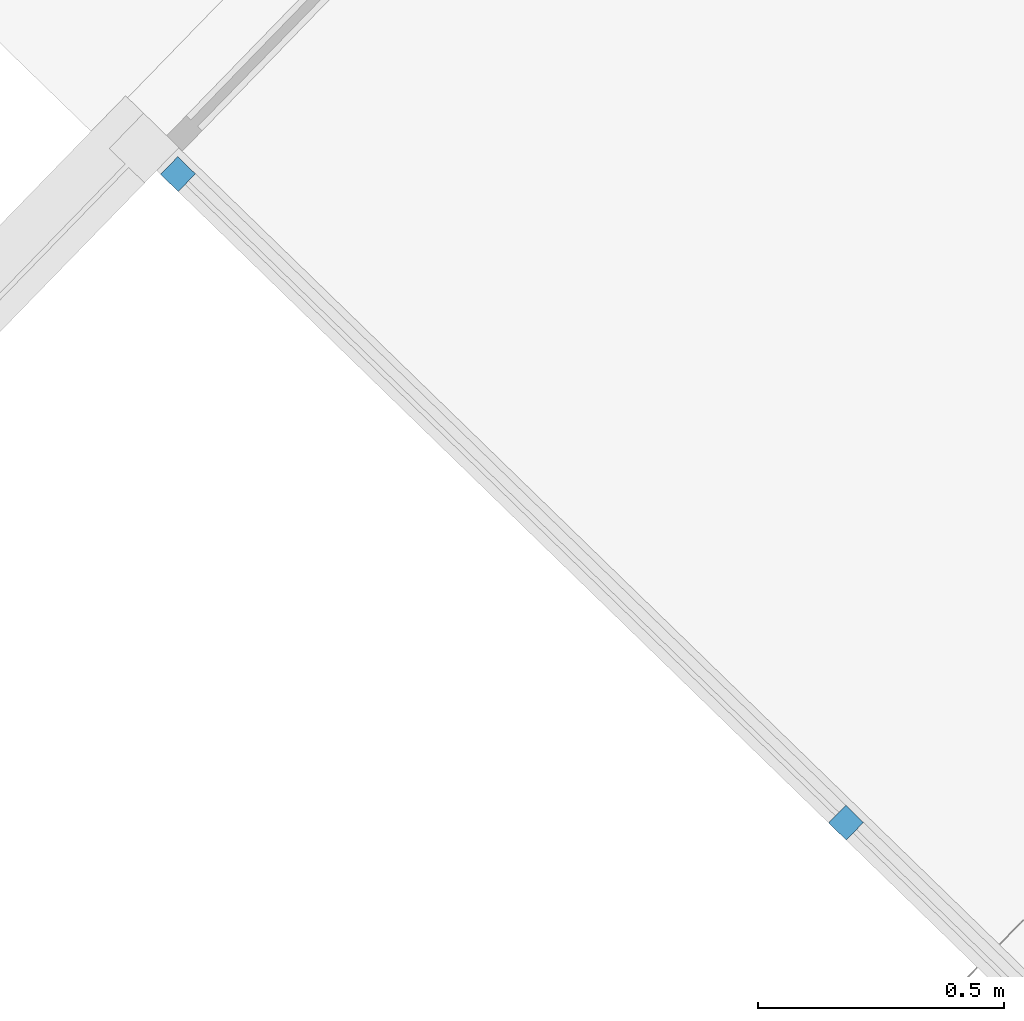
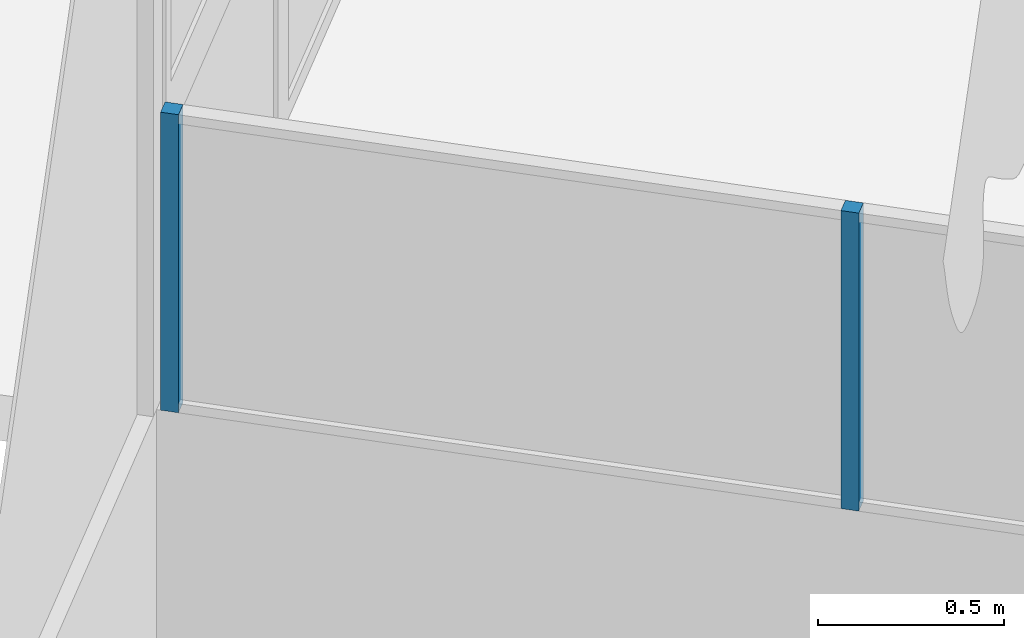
# One storey, part 8 of 37: 2 members, 1 element without a shape of its own.
"""IFC2X3 building model written with IfcOpenShell, lengths in centimetres."""

from ifc_helpers import new_model, entity, si_unit, converted_unit, derived_unit, direction, frame, frame_2d, origin, origin_2d_with_axis, place, context, subcontext, project, spatial, rectangle, extrude, material, type_object, element, aggregate, save


model = new_model("IFC2X3")

# Units and contexts
model_context = context("Model", 3, precision=0.001, world=origin(), true_north=direction((0.717475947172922, 0.696583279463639)))
body_context = subcontext(model_context, "Body", "Model", "MODEL_VIEW")
ifc_project = project(units=[si_unit("LENGTHUNIT", "METRE", prefix="CENTI"), si_unit("AREAUNIT", "SQUARE_METRE"), si_unit("VOLUMEUNIT", "CUBIC_METRE"), converted_unit("PLANEANGLEUNIT", "DEGREE", entity("IfcRatioMeasure", 0.0174532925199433), si_unit("PLANEANGLEUNIT", "RADIAN"), dimensions=[0, 0, 0, 0, 0, 0, 0]), si_unit("MASSUNIT", "GRAM", prefix="KILO"), derived_unit("MASSDENSITYUNIT", [(si_unit("MASSUNIT", "GRAM", prefix="KILO"), 1), (si_unit("LENGTHUNIT", "METRE"), -3)]), si_unit("TIMEUNIT", "SECOND"), si_unit("FREQUENCYUNIT", "HERTZ"), si_unit("THERMODYNAMICTEMPERATUREUNIT", "DEGREE_CELSIUS"), derived_unit("THERMALTRANSMITTANCEUNIT", [(si_unit("MASSUNIT", "GRAM", prefix="KILO"), 1), (si_unit("THERMODYNAMICTEMPERATUREUNIT", "KELVIN"), -1), (si_unit("TIMEUNIT", "SECOND"), -3)]), derived_unit("VOLUMETRICFLOWRATEUNIT", [(si_unit("LENGTHUNIT", "METRE"), 3), (si_unit("TIMEUNIT", "SECOND"), -1)]), si_unit("ELECTRICCURRENTUNIT", "AMPERE"), si_unit("ELECTRICVOLTAGEUNIT", "VOLT"), si_unit("POWERUNIT", "WATT"), si_unit("FORCEUNIT", "NEWTON", prefix="KILO"), si_unit("ILLUMINANCEUNIT", "LUX"), si_unit("LUMINOUSFLUXUNIT", "LUMEN"), si_unit("LUMINOUSINTENSITYUNIT", "CANDELA"), derived_unit("USERDEFINED", [(si_unit("MASSUNIT", "GRAM", prefix="KILO"), -1), (si_unit("LENGTHUNIT", "METRE"), -2), (si_unit("TIMEUNIT", "SECOND"), 3), (si_unit("LUMINOUSFLUXUNIT", "LUMEN"), 1)]), derived_unit("LINEARVELOCITYUNIT", [(si_unit("LENGTHUNIT", "METRE"), 1), (si_unit("TIMEUNIT", "SECOND"), -1)]), si_unit("PRESSUREUNIT", "PASCAL"), derived_unit("USERDEFINED", [(si_unit("LENGTHUNIT", "METRE"), -2), (si_unit("MASSUNIT", "GRAM", prefix="KILO"), 1), (si_unit("TIMEUNIT", "SECOND"), -2)])], contexts=[model_context])

# Site, building, storey
site_placement = place(None, frame((0.0, 0.0, 0.0), z_axis=(0.0, 0.0, 1.0), x_axis=(0.696583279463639, 0.717475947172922, 0.0)))
site = spatial("IfcSite", under=ifc_project, at=site_placement, Name="Surface", CompositionType="ELEMENT")
building_placement = place(site_placement, origin())
building = spatial("IfcBuilding", under=site, at=building_placement, CompositionType="ELEMENT")
storey_placement = place(building_placement, origin())
storey = spatial("IfcBuildingStorey", under=building, at=storey_placement, Name="Nivel 0.00", CompositionType="ELEMENT", Elevation=0.0)

# Curtain wall, members
curtain_wall_type = type_object("IfcCurtainWallType", Name="Curtain Wall:REJA_BAJA_100mm", PredefinedType="NOTDEFINED")
curtain_wall_placement = place(storey_placement, origin())
curtain_wall = element("IfcCurtainWall", 1, at=curtain_wall_placement, inside=storey, type_object=curtain_wall_type, Name="Curtain Wall:REJA_BAJA_100mm", ObjectType="Curtain Wall:REJA_BAJA_100mm")
ifc_material = material(Name="Aluminum")
member_1_placement = place(curtain_wall_placement, origin())
member_1 = element("IfcMember", 2, at=member_1_placement, material=ifc_material, Name="Curtain Wall:REJA_BAJA_100mm", ObjectType="Curtain Wall:REJA_BAJA_100mm", context=body_context, shape_type="SweptSolid", body=[
    extrude(rectangle(XDim=5.00000000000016, YDim=4.99999999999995, at=frame_2d((0.0, -1.08357767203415e-13), x_axis=(1.0, 0.0))), frame((1796.6277064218, 1059.22563048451, 248.0), z_axis=(0.0, 0.0, -1.0), x_axis=(-1.0, 0.0, 0.0)), (0.0, 0.0, 1.0), 98.0),
])
member_2_placement = place(curtain_wall_placement, origin())
member_2 = element("IfcMember", 3, at=member_2_placement, material=ifc_material, Name="Curtain Wall:REJA_BAJA_100mm", ObjectType="Curtain Wall:REJA_BAJA_100mm", context=body_context, shape_type="SweptSolid", body=[
    extrude(rectangle(XDim=5.00000000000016, YDim=4.99999999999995, at=origin_2d_with_axis()), frame((1796.6277064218, 870.22563048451, 150.0), z_axis=(0.0, 0.0, 1.0), x_axis=(-1.0, 0.0, 0.0)), (0.0, 0.0, 1.0), 98.0),
])
aggregate(curtain_wall, [member_1, member_2])

save(model, "model.ifc")
